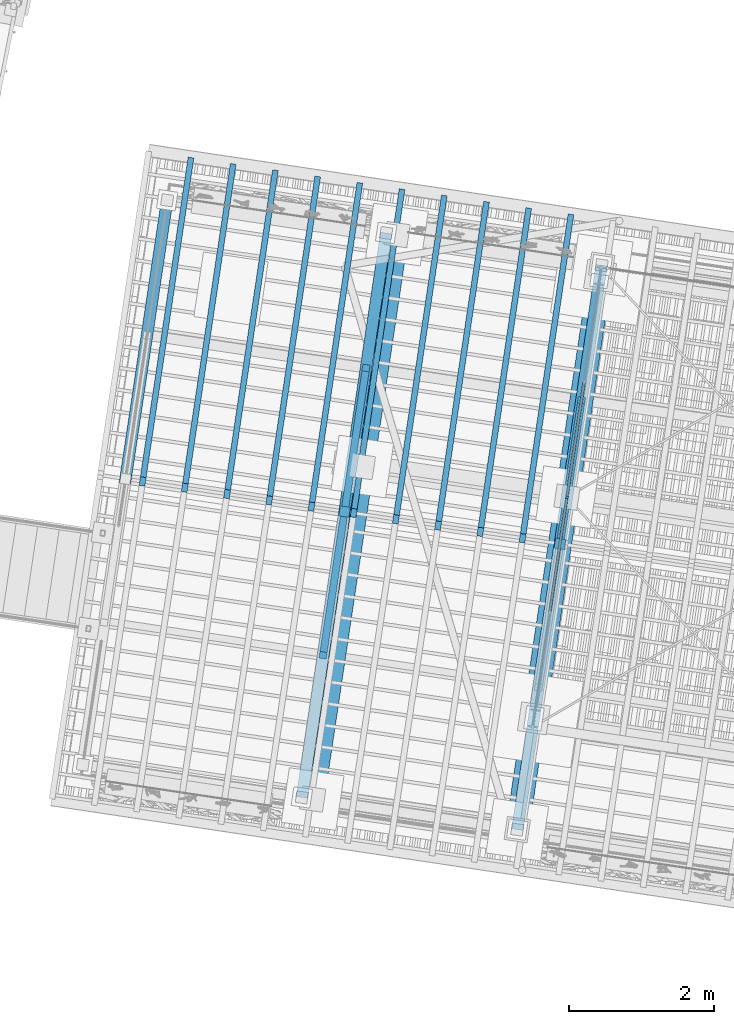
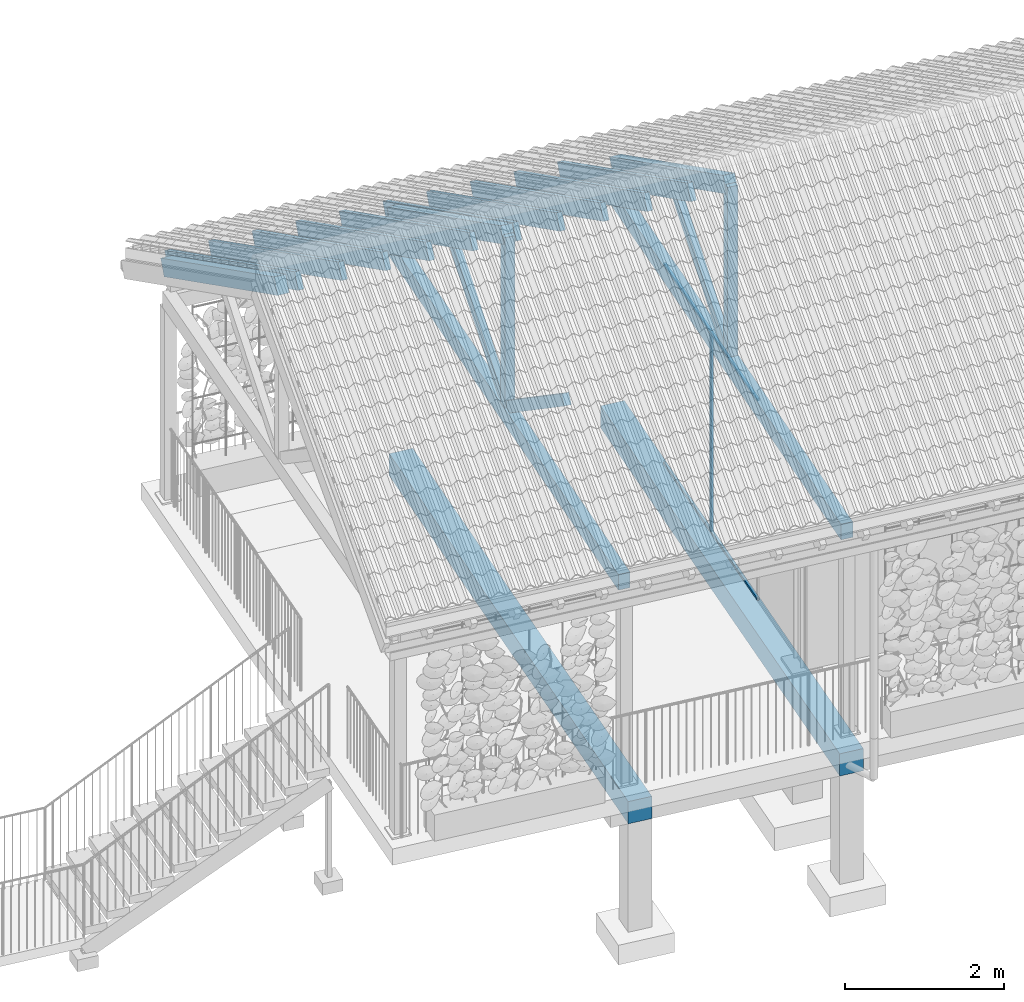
# One storey, part 25 of 131: 24 members, 4 beams, 2 elements without a shape of their own.
"""IFC4 building model written with IfcOpenShell, lengths in metres."""

from ifc_helpers import new_model, si_unit, direction, frame, origin_with_axes, place, context, subcontext, project, spatial, polyline, rectangle, outline, extrude, material, material_profile, profile_set, profile_usage, type_object, element, aggregate, save


model = new_model("IFC4")

# Units and contexts
model_context = context("Model", 3, precision=1e-05, world=origin_with_axes(), true_north=direction((0.0, 1.0)))
body_context = subcontext(model_context, "Body", "Model", "MODEL_VIEW")
ifc_project = project(units=[si_unit("VOLUMEUNIT", "CUBIC_METRE"), si_unit("LENGTHUNIT", "METRE"), si_unit("AREAUNIT", "SQUARE_METRE")], contexts=[model_context])

# Site, building, storey
site_placement = place(None, origin_with_axes())
site = spatial("IfcSite", under=ifc_project, at=site_placement, Name="Lares · Rua das Mercês · artigo 4771")
building_placement = place(site_placement, frame((15.0, 9.7, 14.65), z_axis=(0.0, 0.0, 1.0), x_axis=(0.989015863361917, -0.147809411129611, 0.0)))
building = spatial("IfcBuilding", under=site, at=building_placement, Name="Casa Sobreposta")
storey_placement = place(building_placement, origin_with_axes())
storey = spatial("IfcBuildingStorey", under=building, at=storey_placement, Name="00 · Habitação e estacionamento", Elevation=14.65)

# Members
ifc_material_1 = material(Name="Aço pintado / Stahl lackiert", Category="steel")
ifc_material_profile_1 = material_profile(ifc_material_1, rectangle(XDim=0.035, YDim=0.035))
ifc_profile_set_1 = profile_set([ifc_material_profile_1], Name="R0.035")
ifc_profile_usage_1 = profile_usage(ifc_profile_set_1)
member_type_1 = type_object("IfcMemberType", Name="R0.035 / steel", PredefinedType="NOTDEFINED", material=ifc_profile_set_1)
member_1_placement = place(storey_placement, frame((0.0, 3.2, 0.0), z_axis=(0.0, 0.0, 1.0), x_axis=(1.0, 0.0, 0.0)))
element("IfcMember", 1, at=member_1_placement, inside=storey, type_object=member_type_1, material=ifc_profile_usage_1, context=body_context, shape_type="SweptSolid", body=[
    extrude(rectangle(XDim=0.035, YDim=0.035), origin_with_axes(), (0.0, 0.0, 1.0), 3.05),
])
ifc_profile_usage_2 = profile_usage(ifc_profile_set_1)
member_2_placement = place(storey_placement, frame((0.0, 1.6, 0.0), z_axis=(0.0, 1.0, 0.0), x_axis=(1.0, 0.0, 0.0)))
element("IfcMember", 2, at=member_2_placement, inside=storey, type_object=member_type_1, material=ifc_profile_usage_2, Name="Fachada poente integralmente envidraçada · módulo 2 · travessa", context=body_context, shape_type="SweptSolid", body=[
    extrude(rectangle(XDim=0.035, YDim=0.035), origin_with_axes(), (0.0, 0.0, 1.0), 1.6),
])
ifc_profile_usage_3 = profile_usage(ifc_profile_set_1)
member_3_placement = place(storey_placement, frame((0.0, 1.6, 3.05), z_axis=(0.0, 1.0, 0.0), x_axis=(1.0, 0.0, 0.0)))
element("IfcMember", 3, at=member_3_placement, inside=storey, type_object=member_type_1, material=ifc_profile_usage_3, Name="Fachada poente integralmente envidraçada · módulo 2 · travessa", context=body_context, shape_type="SweptSolid", body=[
    extrude(rectangle(XDim=0.035, YDim=0.035), origin_with_axes(), (0.0, 0.0, 1.0), 1.6),
])
ifc_profile_usage_4 = profile_usage(ifc_profile_set_1)
member_4_placement = place(storey_placement, frame((0.0, 3.2, 0.0), z_axis=(0.0, 0.0, 1.0), x_axis=(1.0, 0.0, 0.0)))
element("IfcMember", 4, at=member_4_placement, inside=storey, type_object=member_type_1, material=ifc_profile_usage_4, context=body_context, shape_type="SweptSolid", body=[
    extrude(rectangle(XDim=0.035, YDim=0.035), origin_with_axes(), (0.0, 0.0, 1.0), 3.05),
])
ifc_profile_usage_5 = profile_usage(ifc_profile_set_1)
member_5_placement = place(storey_placement, frame((0.0, 3.2, 0.0), z_axis=(0.0, 1.0, 0.0), x_axis=(1.0, 0.0, 0.0)))
element("IfcMember", 5, at=member_5_placement, inside=storey, type_object=member_type_1, material=ifc_profile_usage_5, Name="Fachada poente integralmente envidraçada · módulo 3 · travessa", context=body_context, shape_type="SweptSolid", body=[
    extrude(rectangle(XDim=0.035, YDim=0.035), origin_with_axes(), (0.0, 0.0, 1.0), 1.6),
])
ifc_profile_usage_6 = profile_usage(ifc_profile_set_1)
member_6_placement = place(storey_placement, frame((0.0, 3.2, 3.05), z_axis=(0.0, 1.0, 0.0), x_axis=(1.0, 0.0, 0.0)))
element("IfcMember", 6, at=member_6_placement, inside=storey, type_object=member_type_1, material=ifc_profile_usage_6, Name="Fachada poente integralmente envidraçada · módulo 3 · travessa", context=body_context, shape_type="SweptSolid", body=[
    extrude(rectangle(XDim=0.035, YDim=0.035), origin_with_axes(), (0.0, 0.0, 1.0), 1.6),
])

# Roof, beams, members
ifc_material_2 = material(Name="Madeira / Bauholz", Category="wood")
roof_placement = place(storey_placement, origin_with_axes())
roof = element("IfcRoof", 7, at=roof_placement, inside=storey, material=ifc_material_2, Name="Cobertura de telha · duas águas 30 graus", PredefinedType="GABLE_ROOF")
ifc_material_profile_2 = material_profile(ifc_material_2, rectangle(XDim=0.16, YDim=0.24))
ifc_profile_set_2 = profile_set([ifc_material_profile_2], Name="TIMBER0.160x0.240")
ifc_profile_usage_7 = profile_usage(ifc_profile_set_2)
beam_type = type_object("IfcBeamType", Name="TIMBER0.160x0.240 / timber", PredefinedType="NOTDEFINED", material=ifc_profile_set_2)
beam_1_placement = place(roof_placement, frame((-3.0, -1.43, 3.02), z_axis=(0.0, 1.0, 0.0), x_axis=(1.0, 0.0, 0.0)))
beam_1 = element("IfcBeam", 8, at=beam_1_placement, type_object=beam_type, material=ifc_profile_usage_7, Name="Tesoura · tirante inferior", context=body_context, shape_type="SweptSolid", body=[
    extrude(rectangle(XDim=0.16, YDim=0.24), origin_with_axes(), (0.0, 0.0, 1.0), 7.86),
])
ifc_profile_usage_8 = profile_usage(ifc_profile_set_2)
beam_2_placement = place(roof_placement, frame((0.0, -1.43, 3.02), z_axis=(0.0, 1.0, 0.0), x_axis=(1.0, 0.0, 0.0)))
beam_2 = element("IfcBeam", 9, at=beam_2_placement, type_object=beam_type, material=ifc_profile_usage_8, Name="Tesoura · tirante inferior", context=body_context, shape_type="SweptSolid", body=[
    extrude(rectangle(XDim=0.16, YDim=0.24), origin_with_axes(), (0.0, 0.0, 1.0), 7.86),
])
ifc_material_profile_3 = material_profile(ifc_material_2, rectangle(XDim=0.16, YDim=0.24))
ifc_profile_set_3 = profile_set([ifc_material_profile_3], Name="TIMBER0.160x0.240")
ifc_profile_usage_9 = profile_usage(ifc_profile_set_3)
member_type_2 = type_object("IfcMemberType", Name="TIMBER0.160x0.240 / timber", PredefinedType="NOTDEFINED", material=ifc_profile_set_3)
member_7_placement = place(roof_placement, frame((-6.05, 2.55, 5.74420869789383), z_axis=(0.0, 0.866025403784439, -0.5), x_axis=(1.0, 0.0, 0.0)))
member_7 = element("IfcMember", 10, at=member_7_placement, type_object=member_type_2, material=ifc_profile_usage_9, Name="Tesoura · perna", context=body_context, shape_type="SweptSolid", body=[
    extrude(rectangle(XDim=0.16, YDim=0.24), origin_with_axes(), (0.0, 0.0, 1.0), 4.4802380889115),
])
ifc_profile_usage_10 = profile_usage(ifc_profile_set_3)
member_8_placement = place(roof_placement, frame((-3.0, 2.55, 5.74420869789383), z_axis=(0.0, 0.866025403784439, -0.5), x_axis=(1.0, 0.0, 0.0)))
member_8 = element("IfcMember", 11, at=member_8_placement, type_object=member_type_2, material=ifc_profile_usage_10, Name="Tesoura · perna", context=body_context, shape_type="SweptSolid", body=[
    extrude(rectangle(XDim=0.16, YDim=0.24), origin_with_axes(), (0.0, 0.0, 1.0), 4.4802380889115),
])
ifc_profile_usage_11 = profile_usage(ifc_profile_set_3)
member_9_placement = place(roof_placement, frame((0.0, 2.55, 5.74420869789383), z_axis=(0.0, 0.866025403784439, -0.5), x_axis=(1.0, 0.0, 0.0)))
member_9 = element("IfcMember", 12, at=member_9_placement, type_object=member_type_2, material=ifc_profile_usage_11, Name="Tesoura · perna", context=body_context, shape_type="SweptSolid", body=[
    extrude(rectangle(XDim=0.16, YDim=0.24), origin_with_axes(), (0.0, 0.0, 1.0), 4.4802380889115),
])
ifc_material_profile_4 = material_profile(ifc_material_2, rectangle(XDim=0.14, YDim=0.14))
ifc_profile_set_4 = profile_set([ifc_material_profile_4], Name="TIMBER0.140x0.140")
ifc_profile_usage_12 = profile_usage(ifc_profile_set_4)
member_type_3 = type_object("IfcMemberType", Name="TIMBER0.140x0.140 / timber", PredefinedType="NOTDEFINED", material=ifc_profile_set_4)
member_10_placement = place(roof_placement, frame((-3.0, 2.55, 3.02), z_axis=(0.0, 0.0, 1.0), x_axis=(1.0, 0.0, 0.0)))
member_10 = element("IfcMember", 13, at=member_10_placement, type_object=member_type_3, material=ifc_profile_usage_12, Name="Tesoura · pendural", context=body_context, shape_type="SweptSolid", body=[
    extrude(rectangle(XDim=0.14, YDim=0.14), origin_with_axes(), (0.0, 0.0, 1.0), 2.72420869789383),
])
ifc_profile_usage_13 = profile_usage(ifc_profile_set_4)
member_11_placement = place(roof_placement, frame((0.0, 2.55, 3.02), z_axis=(0.0, 0.0, 1.0), x_axis=(1.0, 0.0, 0.0)))
member_11 = element("IfcMember", 14, at=member_11_placement, type_object=member_type_3, material=ifc_profile_usage_13, Name="Tesoura · pendural", context=body_context, shape_type="SweptSolid", body=[
    extrude(rectangle(XDim=0.14, YDim=0.14), origin_with_axes(), (0.0, 0.0, 1.0), 2.72420869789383),
])
ifc_material_profile_5 = material_profile(ifc_material_2, rectangle(XDim=0.1, YDim=0.16))
ifc_profile_set_5 = profile_set([ifc_material_profile_5], Name="TIMBER0.100x0.160")
ifc_profile_usage_14 = profile_usage(ifc_profile_set_5)
member_type_4 = type_object("IfcMemberType", Name="TIMBER0.100x0.160 / timber", PredefinedType="NOTDEFINED", material=ifc_profile_set_5)
member_12_placement = place(roof_placement, frame((-3.0, 2.55, 3.1), z_axis=(0.0, -0.816439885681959, 0.577430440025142), x_axis=(-1.0, 0.0, 0.0)))
member_12 = element("IfcMember", 15, at=member_12_placement, type_object=member_type_4, material=ifc_profile_usage_14, Name="Tesoura · escora", context=body_context, shape_type="SweptSolid", body=[
    extrude(rectangle(XDim=0.1, YDim=0.16), origin_with_axes(), (0.0, 0.0, 1.0), 2.44965984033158),
])
ifc_profile_usage_15 = profile_usage(ifc_profile_set_5)
member_13_placement = place(roof_placement, frame((-3.0, 2.55, 3.1), z_axis=(0.0, 0.816439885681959, 0.577430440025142), x_axis=(1.0, 0.0, 0.0)))
member_13 = element("IfcMember", 16, at=member_13_placement, type_object=member_type_4, material=ifc_profile_usage_15, Name="Tesoura · escora", context=body_context, shape_type="SweptSolid", body=[
    extrude(rectangle(XDim=0.1, YDim=0.16), origin_with_axes(), (0.0, 0.0, 1.0), 2.44965984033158),
])
ifc_profile_usage_16 = profile_usage(ifc_profile_set_5)
member_14_placement = place(roof_placement, frame((0.0, 2.55, 3.1), z_axis=(0.0, 0.816439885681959, 0.577430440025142), x_axis=(1.0, 0.0, 0.0)))
member_14 = element("IfcMember", 17, at=member_14_placement, type_object=member_type_4, material=ifc_profile_usage_16, Name="Tesoura · escora", context=body_context, shape_type="SweptSolid", body=[
    extrude(rectangle(XDim=0.1, YDim=0.16), origin_with_axes(), (0.0, 0.0, 1.0), 2.44965984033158),
])
ifc_material_profile_6 = material_profile(ifc_material_2, rectangle(XDim=0.08, YDim=0.24))
ifc_profile_set_6 = profile_set([ifc_material_profile_6], Name="TIMBER0.080x0.240")
ifc_profile_usage_17 = profile_usage(ifc_profile_set_6)
member_type_5 = type_object("IfcMemberType", Name="TIMBER0.080x0.240 / timber", PredefinedType="NOTDEFINED", material=ifc_profile_set_6)
member_15_placement = place(roof_placement, frame((-5.81212121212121, 2.55, 5.75020869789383), z_axis=(0.0, 0.866025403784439, -0.5), x_axis=(1.0, 0.0, 0.0)))
member_15 = element("IfcMember", 18, at=member_15_placement, type_object=member_type_5, material=ifc_profile_usage_17, Name="Cobertura · caibro", context=body_context, shape_type="SweptSolid", body=[
    extrude(rectangle(XDim=0.08, YDim=0.24), origin_with_axes(), (0.0, 0.0, 1.0), 5.13841739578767),
])
ifc_profile_usage_18 = profile_usage(ifc_profile_set_6)
member_16_placement = place(roof_placement, frame((-5.22424242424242, 2.55, 5.75020869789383), z_axis=(0.0, 0.866025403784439, -0.5), x_axis=(1.0, 0.0, 0.0)))
member_16 = element("IfcMember", 19, at=member_16_placement, type_object=member_type_5, material=ifc_profile_usage_18, Name="Cobertura · caibro", context=body_context, shape_type="SweptSolid", body=[
    extrude(rectangle(XDim=0.08, YDim=0.24), origin_with_axes(), (0.0, 0.0, 1.0), 5.13841739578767),
])
ifc_profile_usage_19 = profile_usage(ifc_profile_set_6)
member_17_placement = place(roof_placement, frame((-4.63636363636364, 2.55, 5.75020869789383), z_axis=(0.0, 0.866025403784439, -0.5), x_axis=(1.0, 0.0, 0.0)))
member_17 = element("IfcMember", 20, at=member_17_placement, type_object=member_type_5, material=ifc_profile_usage_19, Name="Cobertura · caibro", context=body_context, shape_type="SweptSolid", body=[
    extrude(rectangle(XDim=0.08, YDim=0.24), origin_with_axes(), (0.0, 0.0, 1.0), 5.13841739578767),
])
ifc_profile_usage_20 = profile_usage(ifc_profile_set_6)
member_18_placement = place(roof_placement, frame((-4.04848484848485, 2.55, 5.75020869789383), z_axis=(0.0, 0.866025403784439, -0.5), x_axis=(1.0, 0.0, 0.0)))
member_18 = element("IfcMember", 21, at=member_18_placement, type_object=member_type_5, material=ifc_profile_usage_20, Name="Cobertura · caibro", context=body_context, shape_type="SweptSolid", body=[
    extrude(rectangle(XDim=0.08, YDim=0.24), origin_with_axes(), (0.0, 0.0, 1.0), 5.13841739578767),
])
ifc_profile_usage_21 = profile_usage(ifc_profile_set_6)
member_19_placement = place(roof_placement, frame((-3.46060606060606, 2.55, 5.75020869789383), z_axis=(0.0, 0.866025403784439, -0.5), x_axis=(1.0, 0.0, 0.0)))
member_19 = element("IfcMember", 22, at=member_19_placement, type_object=member_type_5, material=ifc_profile_usage_21, Name="Cobertura · caibro", context=body_context, shape_type="SweptSolid", body=[
    extrude(rectangle(XDim=0.08, YDim=0.24), origin_with_axes(), (0.0, 0.0, 1.0), 5.13841739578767),
])
ifc_profile_usage_22 = profile_usage(ifc_profile_set_6)
member_20_placement = place(roof_placement, frame((-2.87272727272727, 2.55, 5.75020869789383), z_axis=(0.0, 0.866025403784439, -0.5), x_axis=(1.0, 0.0, 0.0)))
member_20 = element("IfcMember", 23, at=member_20_placement, type_object=member_type_5, material=ifc_profile_usage_22, Name="Cobertura · caibro", context=body_context, shape_type="SweptSolid", body=[
    extrude(rectangle(XDim=0.08, YDim=0.24), origin_with_axes(), (0.0, 0.0, 1.0), 5.13841739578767),
])
ifc_profile_usage_23 = profile_usage(ifc_profile_set_6)
member_21_placement = place(roof_placement, frame((-2.28484848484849, 2.55, 5.75020869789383), z_axis=(0.0, 0.866025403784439, -0.5), x_axis=(1.0, 0.0, 0.0)))
member_21 = element("IfcMember", 24, at=member_21_placement, type_object=member_type_5, material=ifc_profile_usage_23, Name="Cobertura · caibro", context=body_context, shape_type="SweptSolid", body=[
    extrude(rectangle(XDim=0.08, YDim=0.24), origin_with_axes(), (0.0, 0.0, 1.0), 5.13841739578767),
])
ifc_profile_usage_24 = profile_usage(ifc_profile_set_6)
member_22_placement = place(roof_placement, frame((-1.6969696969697, 2.55, 5.75020869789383), z_axis=(0.0, 0.866025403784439, -0.5), x_axis=(1.0, 0.0, 0.0)))
member_22 = element("IfcMember", 25, at=member_22_placement, type_object=member_type_5, material=ifc_profile_usage_24, Name="Cobertura · caibro", context=body_context, shape_type="SweptSolid", body=[
    extrude(rectangle(XDim=0.08, YDim=0.24), origin_with_axes(), (0.0, 0.0, 1.0), 5.13841739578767),
])
ifc_profile_usage_25 = profile_usage(ifc_profile_set_6)
member_23_placement = place(roof_placement, frame((-1.10909090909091, 2.55, 5.75020869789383), z_axis=(0.0, 0.866025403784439, -0.5), x_axis=(1.0, 0.0, 0.0)))
member_23 = element("IfcMember", 26, at=member_23_placement, type_object=member_type_5, material=ifc_profile_usage_25, Name="Cobertura · caibro", context=body_context, shape_type="SweptSolid", body=[
    extrude(rectangle(XDim=0.08, YDim=0.24), origin_with_axes(), (0.0, 0.0, 1.0), 5.13841739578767),
])
ifc_profile_usage_26 = profile_usage(ifc_profile_set_6)
member_24_placement = place(roof_placement, frame((-0.521212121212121, 2.55, 5.75020869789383), z_axis=(0.0, 0.866025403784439, -0.5), x_axis=(1.0, 0.0, 0.0)))
member_24 = element("IfcMember", 27, at=member_24_placement, type_object=member_type_5, material=ifc_profile_usage_26, Name="Cobertura · caibro", context=body_context, shape_type="SweptSolid", body=[
    extrude(rectangle(XDim=0.08, YDim=0.24), origin_with_axes(), (0.0, 0.0, 1.0), 5.13841739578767),
])
aggregate(roof, [member_7, beam_1, member_8, member_10, member_12, member_13, beam_2, member_9, member_11, member_14, member_15, member_16, member_17, member_18, member_19, member_20, member_21, member_22, member_23, member_24])

# Assembly, beams
assembly_placement = place(storey_placement, origin_with_axes())
assembly = element("IfcElementAssembly", 28, at=assembly_placement, inside=storey, Name="Pódio · terraço, casa térrea e cisterna", ObjectType="CISTERN_PODIUM", PredefinedType="USERDEFINED")
ifc_material_3 = material(Name="Betão armado / Stahlbeton", Category="concrete")
beam_3_placement = place(assembly_placement, frame((0.0, 0.0, -0.59), z_axis=(0.0, 0.0, 1.0), x_axis=(1.0, 0.0, 0.0)))
beam_3 = element("IfcBeam", 29, at=beam_3_placement, material=ifc_material_3, Name="Pódio suspenso · viga transversal", context=body_context, shape_type="SweptSolid", body=[
    extrude(outline(polyline([(-2.69, -1.59), (-2.69, 6.59), (-3.01, 6.59), (-3.01, -1.59), (-2.69, -1.59)])), origin_with_axes(), (0.0, 0.0, 1.0), 0.34),
])
beam_4_placement = place(assembly_placement, frame((0.0, 0.0, -0.59), z_axis=(0.0, 0.0, 1.0), x_axis=(1.0, 0.0, 0.0)))
beam_4 = element("IfcBeam", 30, at=beam_4_placement, material=ifc_material_3, Name="Pódio suspenso · viga transversal", context=body_context, shape_type="SweptSolid", body=[
    extrude(outline(polyline([(0.16, -1.59), (0.16, 6.59), (-0.16, 6.59), (-0.16, -1.59), (0.16, -1.59)])), origin_with_axes(), (0.0, 0.0, 1.0), 0.34),
])
aggregate(assembly, [beam_3, beam_4])

save(model, "model.ifc")
